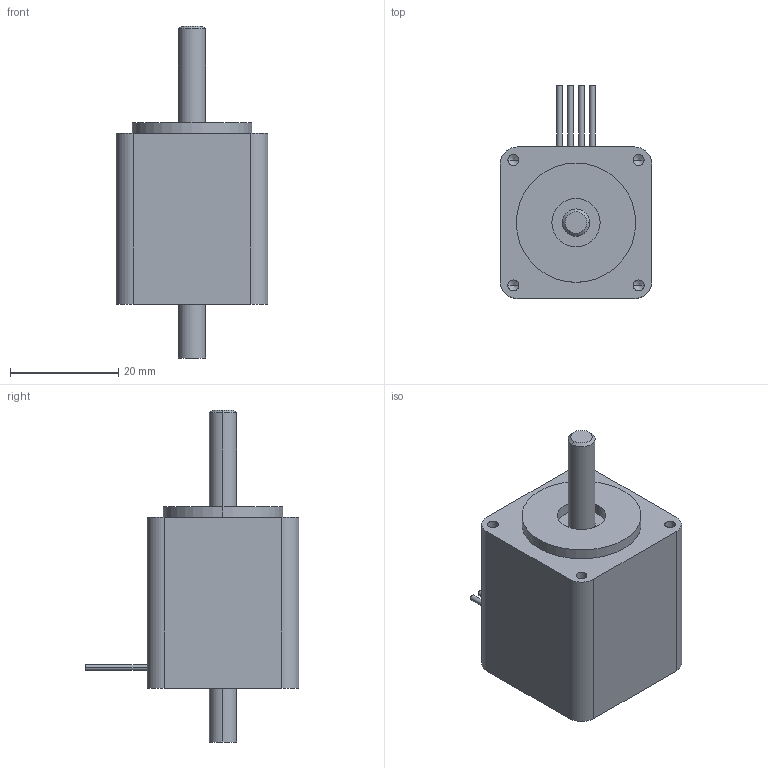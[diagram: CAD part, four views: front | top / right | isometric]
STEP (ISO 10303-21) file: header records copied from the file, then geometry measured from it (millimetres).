
FILE_DESCRIPTION((''),'2;1');
FILE_NAME('C:\Documents and Settings\rbadgerow\Desktop\webmodelmain\web step 3d\211-13 052605\211-13 d.stp','2005-05-27T09:43:20',('rbadgerow'),(''),'Autodesk Inventor 9','Autodesk Inventor 9','');
FILE_SCHEMA(('AUTOMOTIVE_DESIGN { 1 0 10303 214 1 1 1 1 }'));
Length unit declared in the file: inch
Products named in the file (1): 211-13 d
Bounding box: 27.94 x 39.37 x 61.21 mm (x, y, z)
Volume: 25514.1 mm3; surface area: 5819.9 mm2
Topology: 2 solids, 2 shells, 56 faces, 122 edges, 74 vertices
Faces by surface type: cylinder 22, plane 16, bspline 16, cone 2
Entity records: 1724 total; most frequent: CARTESIAN_POINT 517, DIRECTION 258, ORIENTED_EDGE 228, EDGE_CURVE 114, AXIS2_PLACEMENT_3D 103, VERTEX_POINT 74, EDGE_LOOP 68, CIRCLE 62
